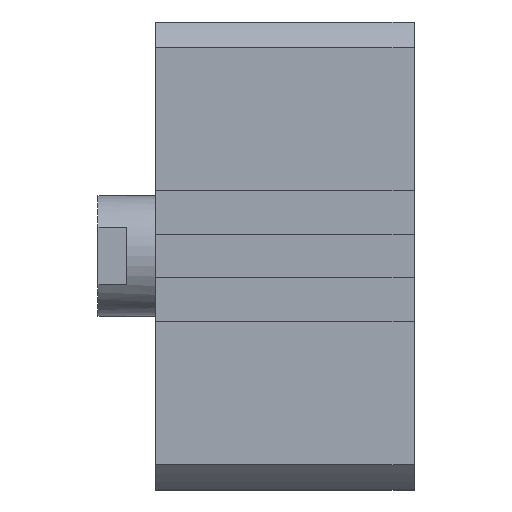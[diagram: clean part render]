
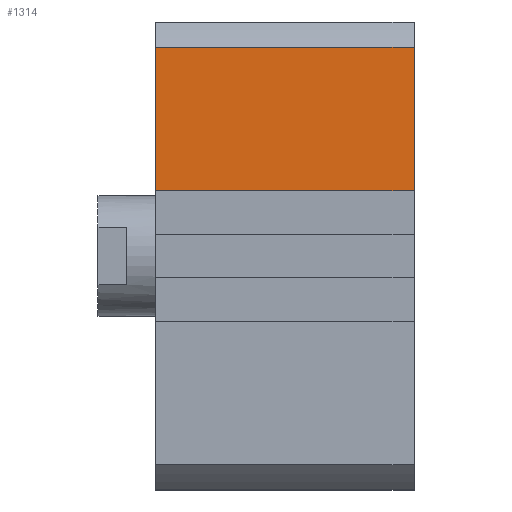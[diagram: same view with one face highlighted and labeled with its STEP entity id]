
A CAD part, left-side view. The second image highlights one B-rep face of the part: STEP entity #1314.
In plain terms, the highlighted planar face has unit normal (-1, 0, 0).
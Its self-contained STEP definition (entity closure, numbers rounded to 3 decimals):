
#49 = VERTEX_POINT ( 'NONE', #940 ) ;
#64 = LINE ( 'NONE', #71, #3022 ) ;
#71 = CARTESIAN_POINT ( 'NONE',  ( -48.5, -53.5, 43.275 ) ) ;
#73 = LINE ( 'NONE', #2625, #2283 ) ;
#155 = EDGE_CURVE ( 'NONE', #1831, #186, #73, .T. ) ;
#158 = CARTESIAN_POINT ( 'NONE',  ( -48.5, -53.5, 0. ) ) ;
#186 = VERTEX_POINT ( 'NONE', #2478 ) ;
#275 = ORIENTED_EDGE ( 'NONE', *, *, #794, .T. ) ;
#358 = DIRECTION ( 'NONE',  ( 0., 0., 1. ) ) ;
#794 = EDGE_CURVE ( 'NONE', #1831, #1379, #2913, .T. ) ;
#825 = ORIENTED_EDGE ( 'NONE', *, *, #1030, .T. ) ;
#938 = CARTESIAN_POINT ( 'NONE',  ( -48.5, -53.5, 43.275 ) ) ;
#940 = CARTESIAN_POINT ( 'NONE',  ( -48.5, 0., 43.275 ) ) ;
#954 = EDGE_LOOP ( 'NONE', ( #1504, #2884, #275, #825 ) ) ;
#1030 = EDGE_CURVE ( 'NONE', #1379, #49, #64, .T. ) ;
#1199 = VECTOR ( 'NONE', #358, 1000. ) ;
#1203 = DIRECTION ( 'NONE',  ( 0., 1., 0. ) ) ;
#1314 = ADVANCED_FACE ( 'NONE', ( #1346 ), #1566, .T. ) ;
#1346 = FACE_OUTER_BOUND ( 'NONE', #954, .T. ) ;
#1379 = VERTEX_POINT ( 'NONE', #938 ) ;
#1504 = ORIENTED_EDGE ( 'NONE', *, *, #2830, .F. ) ;
#1566 = PLANE ( 'NONE',  #2527 ) ;
#1763 = CARTESIAN_POINT ( 'NONE',  ( -48.5, -53.5, 0. ) ) ;
#1831 = VERTEX_POINT ( 'NONE', #1969 ) ;
#1947 = DIRECTION ( 'NONE',  ( 0., 1., 0. ) ) ;
#1969 = CARTESIAN_POINT ( 'NONE',  ( -48.5, -53.5, 13.5 ) ) ;
#2070 = VECTOR ( 'NONE', #2595, 1000. ) ;
#2101 = DIRECTION ( 'NONE',  ( 0., 0., 1. ) ) ;
#2283 = VECTOR ( 'NONE', #1203, 1000. ) ;
#2336 = DIRECTION ( 'NONE',  ( -1., 0., 0. ) ) ;
#2377 = LINE ( 'NONE', #2606, #2070 ) ;
#2478 = CARTESIAN_POINT ( 'NONE',  ( -48.5, 0., 13.5 ) ) ;
#2527 = AXIS2_PLACEMENT_3D ( 'NONE', #158, #2336, #2101 ) ;
#2595 = DIRECTION ( 'NONE',  ( 0., 0., 1. ) ) ;
#2606 = CARTESIAN_POINT ( 'NONE',  ( -48.5, 0., 0. ) ) ;
#2625 = CARTESIAN_POINT ( 'NONE',  ( -48.5, -53.5, 13.5 ) ) ;
#2830 = EDGE_CURVE ( 'NONE', #186, #49, #2377, .T. ) ;
#2884 = ORIENTED_EDGE ( 'NONE', *, *, #155, .F. ) ;
#2913 = LINE ( 'NONE', #1763, #1199 ) ;
#3022 = VECTOR ( 'NONE', #1947, 1000. ) ;
